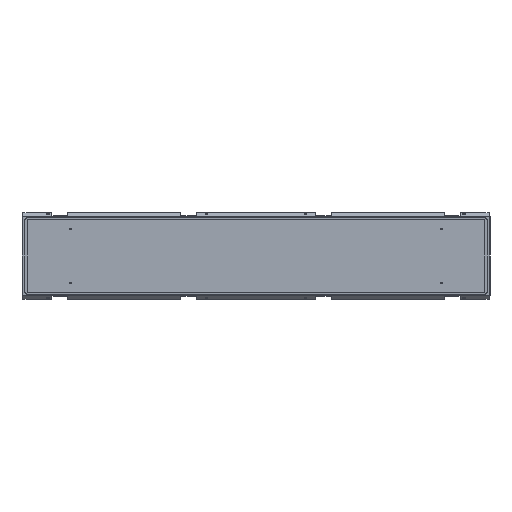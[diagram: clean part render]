
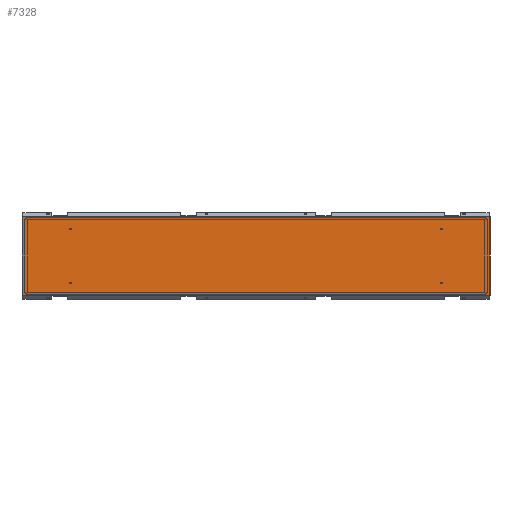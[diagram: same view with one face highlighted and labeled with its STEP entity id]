
A CAD part, left-side view. The second image highlights one B-rep face of the part: STEP entity #7328.
In plain terms, the highlighted planar face has unit normal (-1, 0, 0) as drawn and (0, 0, 1) by its records, which use the part's own axes.
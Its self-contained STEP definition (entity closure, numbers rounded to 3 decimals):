
#232 = VECTOR ( 'NONE', #5132, 1000. ) ;
#406 = ORIENTED_EDGE ( 'NONE', *, *, #5693, .T. ) ;
#641 = DIRECTION ( 'NONE',  ( -1., 0., 0. ) ) ;
#756 = AXIS2_PLACEMENT_3D ( 'NONE', #8093, #6629, #641 ) ;
#1014 = VECTOR ( 'NONE', #5395, 1000. ) ;
#1079 = VECTOR ( 'NONE', #8389, 1000. ) ;
#2159 = DIRECTION ( 'NONE',  ( 1., 0., 0. ) ) ;
#2355 = LINE ( 'NONE', #3737, #232 ) ;
#2638 = LINE ( 'NONE', #5955, #5546 ) ;
#2726 = CARTESIAN_POINT ( 'NONE',  ( -162.75, 970.5, 0. ) ) ;
#3360 = EDGE_CURVE ( 'NONE', #3375, #3602, #7379, .T. ) ;
#3375 = VERTEX_POINT ( 'NONE', #4599 ) ;
#3602 = VERTEX_POINT ( 'NONE', #6403 ) ;
#3737 = CARTESIAN_POINT ( 'NONE',  ( -162.75, -970.5, 0. ) ) ;
#4599 = CARTESIAN_POINT ( 'NONE',  ( 162.75, 970.5, 0. ) ) ;
#4861 = CARTESIAN_POINT ( 'NONE',  ( 162.75, -970.5, 0. ) ) ;
#5006 = ORIENTED_EDGE ( 'NONE', *, *, #3360, .T. ) ;
#5132 = DIRECTION ( 'NONE',  ( 0., -1., 0. ) ) ;
#5186 = VERTEX_POINT ( 'NONE', #6718 ) ;
#5395 = DIRECTION ( 'NONE',  ( -1., 0., 0. ) ) ;
#5402 = PLANE ( 'NONE',  #756 ) ;
#5546 = VECTOR ( 'NONE', #2159, 1000. ) ;
#5693 = EDGE_CURVE ( 'NONE', #3602, #8005, #2355, .T. ) ;
#5705 = LINE ( 'NONE', #4861, #1079 ) ;
#5847 = EDGE_CURVE ( 'NONE', #8005, #5186, #2638, .T. ) ;
#5955 = CARTESIAN_POINT ( 'NONE',  ( -162.75, -970.5, 0. ) ) ;
#6003 = EDGE_CURVE ( 'NONE', #5186, #3375, #5705, .T. ) ;
#6009 = EDGE_LOOP ( 'NONE', ( #6348, #5006, #406, #6841 ) ) ;
#6348 = ORIENTED_EDGE ( 'NONE', *, *, #6003, .T. ) ;
#6403 = CARTESIAN_POINT ( 'NONE',  ( -162.75, 970.5, 0. ) ) ;
#6629 = DIRECTION ( 'NONE',  ( 0., 0., -1. ) ) ;
#6718 = CARTESIAN_POINT ( 'NONE',  ( 162.75, -970.5, 0. ) ) ;
#6721 = FACE_OUTER_BOUND ( 'NONE', #6009, .T. ) ;
#6841 = ORIENTED_EDGE ( 'NONE', *, *, #5847, .T. ) ;
#7328 = ADVANCED_FACE ( 'NONE', ( #6721 ), #5402, .F. ) ;
#7379 = LINE ( 'NONE', #2726, #1014 ) ;
#7790 = CARTESIAN_POINT ( 'NONE',  ( -162.75, -970.5, 0. ) ) ;
#8005 = VERTEX_POINT ( 'NONE', #7790 ) ;
#8093 = CARTESIAN_POINT ( 'NONE',  ( 0., 0., 0. ) ) ;
#8389 = DIRECTION ( 'NONE',  ( 0., 1., 0. ) ) ;
